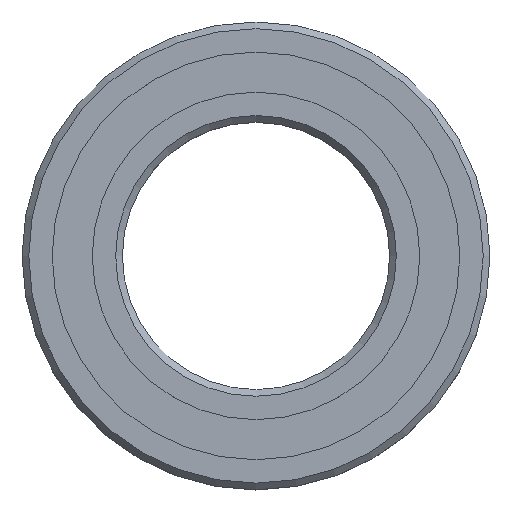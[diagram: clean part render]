
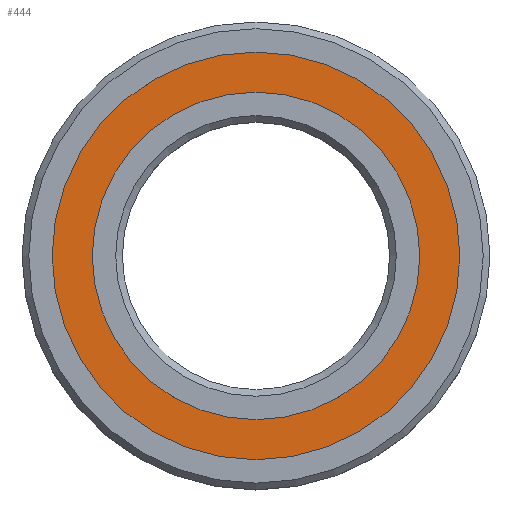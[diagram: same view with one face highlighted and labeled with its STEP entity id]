
A CAD part, top view. The second image highlights one B-rep face of the part: STEP entity #444.
In plain terms, the highlighted planar face has unit normal (0, 0, 1).
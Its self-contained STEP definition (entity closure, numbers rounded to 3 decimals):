
#288 = CYLINDRICAL_SURFACE('',#289,9.15);
#289 = AXIS2_PLACEMENT_3D('',#290,#291,#292);
#290 = CARTESIAN_POINT('',(0.,0.,4.75));
#291 = DIRECTION('',(0.,0.,1.));
#292 = DIRECTION('',(1.,0.,-0.));
#360 = VERTEX_POINT('',#361);
#361 = CARTESIAN_POINT('',(9.15,0.,4.75));
#382 = EDGE_CURVE('',#360,#360,#383,.T.);
#383 = SURFACE_CURVE('',#384,(#389,#396),.PCURVE_S1.);
#384 = CIRCLE('',#385,9.15);
#385 = AXIS2_PLACEMENT_3D('',#386,#387,#388);
#386 = CARTESIAN_POINT('',(0.,0.,4.75));
#387 = DIRECTION('',(0.,0.,1.));
#388 = DIRECTION('',(1.,0.,-0.));
#389 = PCURVE('',#288,#390);
#390 = DEFINITIONAL_REPRESENTATION('',(#391),#395);
#391 = LINE('',#392,#393);
#392 = CARTESIAN_POINT('',(0.,0.));
#393 = VECTOR('',#394,1.);
#394 = DIRECTION('',(1.,0.));
#395 = ( GEOMETRIC_REPRESENTATION_CONTEXT(2) 
PARAMETRIC_REPRESENTATION_CONTEXT() REPRESENTATION_CONTEXT('2D SPACE',''
  ) );
#396 = PCURVE('',#397,#402);
#397 = PLANE('',#398);
#398 = AXIS2_PLACEMENT_3D('',#399,#400,#401);
#399 = CARTESIAN_POINT('',(0.,0.,4.75));
#400 = DIRECTION('',(0.,0.,1.));
#401 = DIRECTION('',(1.,0.,-0.));
#402 = DEFINITIONAL_REPRESENTATION('',(#403),#407);
#403 = CIRCLE('',#404,9.15);
#404 = AXIS2_PLACEMENT_2D('',#405,#406);
#405 = CARTESIAN_POINT('',(0.,0.));
#406 = DIRECTION('',(1.,0.));
#407 = ( GEOMETRIC_REPRESENTATION_CONTEXT(2) 
PARAMETRIC_REPRESENTATION_CONTEXT() REPRESENTATION_CONTEXT('2D SPACE',''
  ) );
#444 = ADVANCED_FACE('',(#445,#448),#397,.T.);
#445 = FACE_BOUND('',#446,.T.);
#446 = EDGE_LOOP('',(#447));
#447 = ORIENTED_EDGE('',*,*,#382,.T.);
#448 = FACE_BOUND('',#449,.T.);
#449 = EDGE_LOOP('',(#450));
#450 = ORIENTED_EDGE('',*,*,#451,.F.);
#451 = EDGE_CURVE('',#452,#452,#454,.T.);
#452 = VERTEX_POINT('',#453);
#453 = CARTESIAN_POINT('',(7.35,0.,4.75));
#454 = SURFACE_CURVE('',#455,(#460,#467),.PCURVE_S1.);
#455 = CIRCLE('',#456,7.35);
#456 = AXIS2_PLACEMENT_3D('',#457,#458,#459);
#457 = CARTESIAN_POINT('',(0.,0.,4.75));
#458 = DIRECTION('',(0.,0.,1.));
#459 = DIRECTION('',(1.,0.,-0.));
#460 = PCURVE('',#397,#461);
#461 = DEFINITIONAL_REPRESENTATION('',(#462),#466);
#462 = CIRCLE('',#463,7.35);
#463 = AXIS2_PLACEMENT_2D('',#464,#465);
#464 = CARTESIAN_POINT('',(0.,0.));
#465 = DIRECTION('',(1.,0.));
#466 = ( GEOMETRIC_REPRESENTATION_CONTEXT(2) 
PARAMETRIC_REPRESENTATION_CONTEXT() REPRESENTATION_CONTEXT('2D SPACE',''
  ) );
#467 = PCURVE('',#468,#473);
#468 = CYLINDRICAL_SURFACE('',#469,7.35);
#469 = AXIS2_PLACEMENT_3D('',#470,#471,#472);
#470 = CARTESIAN_POINT('',(0.,0.,3.75));
#471 = DIRECTION('',(0.,0.,1.));
#472 = DIRECTION('',(1.,0.,-0.));
#473 = DEFINITIONAL_REPRESENTATION('',(#474),#478);
#474 = LINE('',#475,#476);
#475 = CARTESIAN_POINT('',(0.,1.));
#476 = VECTOR('',#477,1.);
#477 = DIRECTION('',(1.,0.));
#478 = ( GEOMETRIC_REPRESENTATION_CONTEXT(2) 
PARAMETRIC_REPRESENTATION_CONTEXT() REPRESENTATION_CONTEXT('2D SPACE',''
  ) );
